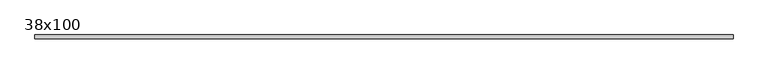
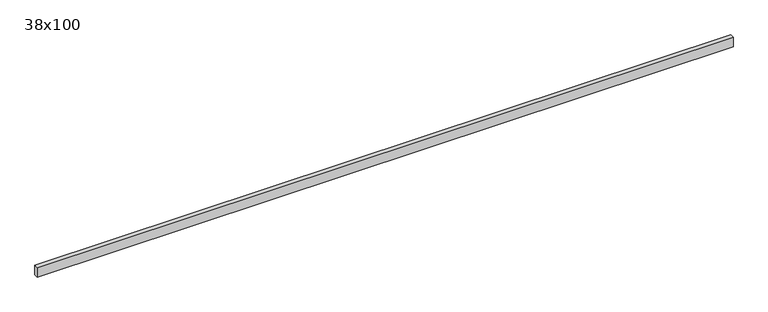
"""IFC4 building model written with IfcOpenShell, lengths in millimetres: beam geometry, Poutre - Bois de construction de dimensions courantes : 38x100."""

import ifcopenshell
import ifcopenshell.guid

model = None  # the IFC model being written
_history = None  # IfcOwnerHistory: only IFC2X3 demands one
_inside = {}  # id of a spatial element -> (the spatial element, [elements in it])
_under = {}  # id of a project, library or spatial element -> (it, [spatial elements below it])
_declared = {}  # id of a project -> (the project, [libraries it declares])
_typed = {}  # id of a type object -> (the type object, [elements of that type])
_made_of = {}  # id of a material, layer set ... -> (it, [elements and type objects made of it])


def new_model(schema):
    """Start an empty IFC model of exactly this schema.

    Asked for "IFC4X3", IfcOpenShell would pick the latest addendum, in which some entities
    have other attributes; the version numbers below select the first issue.
    IFC2X3 requires an IfcOwnerHistory on every rooted entity: one is made here for all.
    """
    global model, _history
    if schema == "IFC4X3":
        model = ifcopenshell.file(schema_version=(4, 3, 0, 0))
    else:
        model = ifcopenshell.file(schema=schema)
    _inside.clear()
    _under.clear()
    _declared.clear()
    _typed.clear()
    _made_of.clear()
    _history = None
    if model.schema == "IFC2X3":
        org = make("IfcOrganization", Name="unknown")
        user = make(
            "IfcPersonAndOrganization",
            ThePerson=make("IfcPerson", FamilyName="unknown"),
            TheOrganization=org,
        )
        app = make(
            "IfcApplication",
            ApplicationDeveloper=org,
            Version="unknown",
            ApplicationFullName="unknown",
            ApplicationIdentifier="unknown",
        )
        _history = make(
            "IfcOwnerHistory",
            OwningUser=user,
            OwningApplication=app,
            ChangeAction="ADDED",
            CreationDate=0,
        )
    return model


def make(cls, **values):
    """One entity of the class cls with the attributes given. An attribute that is None is left unset."""
    return model.create_entity(
        cls, **{name: value for name, value in values.items() if value is not None}
    )


def rooted(cls, **values):
    """An entity with a GlobalId (a new one), such as an element, a storey or a relation."""
    return make(cls, GlobalId=ifcopenshell.guid.new(), OwnerHistory=_history, **values)


def si_unit(unit_type, name, prefix=None):
    """IfcSIUnit, for example si_unit("LENGTHUNIT", "METRE", prefix="MILLI")."""
    return make("IfcSIUnit", UnitType=unit_type, Prefix=prefix, Name=name)


def assignment(units):
    """IfcUnitAssignment: the units of a project."""
    return None if units is None else make("IfcUnitAssignment", Units=units)


def point(xyz):
    """IfcCartesianPoint."""
    return None if xyz is None else make("IfcCartesianPoint", Coordinates=xyz)


def direction(xyz):
    """IfcDirection."""
    return None if xyz is None else make("IfcDirection", DirectionRatios=xyz)


def frame(location, z_axis=None, x_axis=None):
    """IfcAxis2Placement3D, a coordinate frame: its origin and axes. An axis left out is left unset."""
    return make(
        "IfcAxis2Placement3D",
        Location=point(location),
        Axis=direction(z_axis),
        RefDirection=direction(x_axis),
    )


def origin():
    """The frame at (0, 0, 0) with its axes left unset."""
    return frame((0.0, 0.0, 0.0))


def place(relative_to, where):
    """IfcLocalPlacement: puts the frame where relative to a parent placement (None: the world)."""
    return make(
        "IfcLocalPlacement", PlacementRelTo=relative_to, RelativePlacement=where
    )


def context(
    kind, dimensions, precision=None, world=None, true_north=None, identifier=None
):
    """IfcGeometricRepresentationContext, for example the 3D "Model" context."""
    return make(
        "IfcGeometricRepresentationContext",
        ContextIdentifier=identifier,
        ContextType=kind,
        CoordinateSpaceDimension=dimensions,
        Precision=precision,
        WorldCoordinateSystem=world,
        TrueNorth=true_north,
    )


def project(units=None, contexts=None):
    """IfcProject with its units and contexts."""
    return rooted(
        "IfcProject",
        Name="project",
        RepresentationContexts=contexts,
        UnitsInContext=assignment(units),
    )


def spatial(cls, under=None, at=None, **own):
    """A site, building, storey or space (cls), placed at a placement, below another one or the project."""
    s = rooted(cls, ObjectPlacement=at, **own)
    if under is not None:
        _under.setdefault(under.id(), (under, []))[1].append(s)
    return s


def polyline(points):
    """IfcPolyline through the points."""
    return make("IfcPolyline", Points=[point(p) for p in points])


def outline(outer, holes=None, kind="AREA"):
    """IfcArbitraryClosedProfileDef: a profile drawn as a closed curve; with holes, ...WithVoids."""
    if holes is None:
        return make("IfcArbitraryClosedProfileDef", ProfileType=kind, OuterCurve=outer)
    return make(
        "IfcArbitraryProfileDefWithVoids",
        ProfileType=kind,
        OuterCurve=outer,
        InnerCurves=holes,
    )


def extrude(swept, where, along, depth):
    """IfcExtrudedAreaSolid: the profile swept, set in the frame where, extruded along a direction by depth."""
    return make(
        "IfcExtrudedAreaSolid",
        SweptArea=swept,
        Position=where,
        ExtrudedDirection=direction(along),
        Depth=depth,
    )


def shape(context_of_items, identifier, shape_type, items):
    """IfcShapeRepresentation: the items that make up one representation, for example the "Body"."""
    return make(
        "IfcShapeRepresentation",
        ContextOfItems=context_of_items,
        RepresentationIdentifier=identifier,
        RepresentationType=shape_type,
        Items=items,
    )


def source(mapping_origin, context_of_items, identifier, shape_type, items):
    """IfcRepresentationMap: a shape defined once, which mapped items show again and again."""
    return make(
        "IfcRepresentationMap",
        MappingOrigin=mapping_origin,
        MappedRepresentation=shape(context_of_items, identifier, shape_type, items),
    )


def transform(
    local_origin,
    x_axis=None,
    y_axis=None,
    z_axis=None,
    scale=None,
    scale2=None,
    scale3=None,
    uniform=True,
):
    """IfcCartesianTransformationOperator3D, or its non-uniform kind. x_axis, y_axis, z_axis: its Axis1, 2, 3."""
    if uniform:
        return make(
            "IfcCartesianTransformationOperator3D",
            Axis1=direction(x_axis),
            Axis2=direction(y_axis),
            LocalOrigin=point(local_origin),
            Scale=scale,
            Axis3=direction(z_axis),
        )
    return make(
        "IfcCartesianTransformationOperator3DnonUniform",
        Axis1=direction(x_axis),
        Axis2=direction(y_axis),
        LocalOrigin=point(local_origin),
        Scale=scale,
        Axis3=direction(z_axis),
        Scale2=scale2,
        Scale3=scale3,
    )


def mapped(mapping_source, mapping_target):
    """IfcMappedItem: shows the shape of a source again, moved by a transform."""
    return make(
        "IfcMappedItem", MappingSource=mapping_source, MappingTarget=mapping_target
    )


def made_of(thing, what):
    """Note that an element or type object is made of a material, layer set ...; save() writes the relation."""
    if what is not None:
        _made_of.setdefault(what.id(), (what, []))[1].append(thing)
    return thing


def element(
    cls,
    number,
    at=None,
    inside=None,
    cuts=None,
    type_object=None,
    material=None,
    context=None,
    identifier="Body",
    shape_type=None,
    held_by="IfcProductDefinitionShape",
    body=None,
    shapes=None,
    **own,
):
    """One element of the class cls, such as IfcWall. Its Tag is "e" and its number.

    at: its placement. inside: the storey or other place that contains it. cuts: it is an
    opening in that element (IfcRelVoidsElement). A single representation is given by context,
    identifier, shape_type and body (its items); several are given by shapes. held_by: the class
    of the entity that holds the representations. save() writes the other relations.
    """
    e = rooted(cls, Tag="e%d" % number, ObjectPlacement=at, **own)
    if body is not None:
        shapes = [shape(context, identifier, shape_type, body)]
    if shapes is not None:
        e.Representation = make(held_by, Representations=shapes)
    if inside is not None:
        _inside.setdefault(inside.id(), (inside, []))[1].append(e)
    if cuts is not None:
        rooted(
            "IfcRelVoidsElement", RelatingBuildingElement=cuts, RelatedOpeningElement=e
        )
    if type_object is not None:
        _typed.setdefault(type_object.id(), (type_object, []))[1].append(e)
    return made_of(e, material)


def aggregate(whole, parts):
    """IfcRelAggregates: a whole, such as a stair, and the parts it consists of."""
    return rooted("IfcRelAggregates", RelatingObject=whole, RelatedObjects=parts)


def save(model, path):
    """Write the relations noted so far, then the file.

    IfcRelAggregates (storeys below a building ...), IfcRelContainedInSpatialStructure (elements
    in a storey), IfcRelDefinesByType, IfcRelAssociatesMaterial and IfcRelDeclares: one each for
    every whole, place, type object, material and project.
    """
    for whole, parts in _under.values():
        aggregate(whole, parts)
    for where, things in _inside.values():
        rooted(
            "IfcRelContainedInSpatialStructure",
            RelatedElements=things,
            RelatingStructure=where,
        )
    for kind, things in _typed.values():
        rooted("IfcRelDefinesByType", RelatedObjects=things, RelatingType=kind)
    for what, things in _made_of.values():
        rooted("IfcRelAssociatesMaterial", RelatedObjects=things, RelatingMaterial=what)
    for by, libraries in _declared.values():
        rooted("IfcRelDeclares", RelatingContext=by, RelatedDefinitions=libraries)
    model.write(path)


def beam_38x100_493916a8(model_context):
    return source(origin(), model_context, "Body", "SweptSolid", [
        extrude(outline(polyline([(3483.0, 19.05), (3483.0, -19.05), (-3483.0, -19.05), (-3483.0, 19.05), (3483.0, 19.05)])), frame((0.0, 0.0, -50.0), z_axis=(0.0, 0.0, 1.0), x_axis=(1.0, 0.0, 0.0)), (0.0, 0.0, 1.0), 100.0),
    ])


if __name__ == "__main__":
    model = new_model("IFC4")
    model_context = context("Model", 3, world=origin())
    ifc_project = project(units=[si_unit("LENGTHUNIT", "METRE", prefix="MILLI")], contexts=[model_context])
    site = spatial("IfcSite", under=ifc_project)
    building = spatial("IfcBuilding", under=site)
    placement = place(None, origin())
    beam_38x100_shape = beam_38x100_493916a8(model_context)
    element("IfcBeam", 1, ObjectType="Poutre - Bois de construction de dimensions courantes : 38x100", at=placement, inside=building, context=model_context, shape_type="MappedRepresentation", body=[
        mapped(beam_38x100_shape, transform((0.0, 0.0, 0.0), x_axis=(1.0, 0.0, 0.0), y_axis=(0.0, 1.0, 0.0), z_axis=(0.0, 0.0, 1.0))),
    ])
    save(model, "model.ifc")
